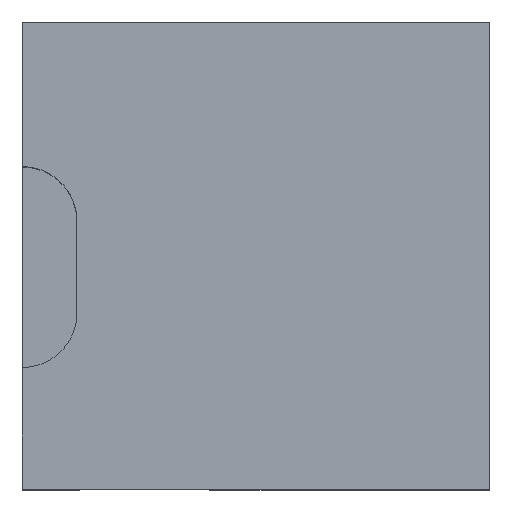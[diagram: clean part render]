
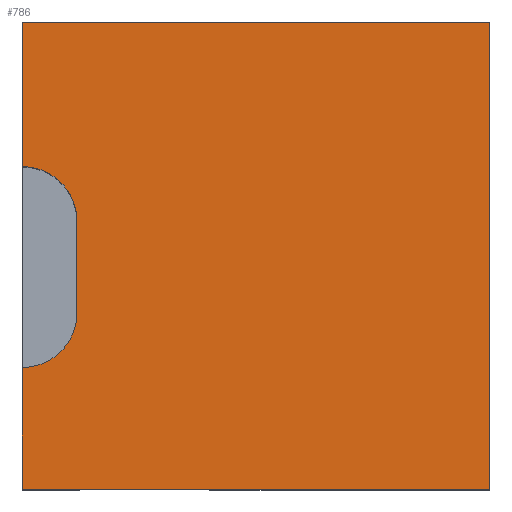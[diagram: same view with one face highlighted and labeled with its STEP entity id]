
A CAD part, top view. The second image highlights one B-rep face of the part: STEP entity #786.
In plain terms, the highlighted planar face has unit normal (0, 0, 1).
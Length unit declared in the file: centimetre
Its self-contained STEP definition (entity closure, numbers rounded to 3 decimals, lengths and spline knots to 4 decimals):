
#10 = CARTESIAN_POINT ( 'NONE',  ( 116.8825, 573.9685, 1000. ) ) ;
#14 = CARTESIAN_POINT ( 'NONE',  ( 0., 1000., 1000. ) ) ;
#31 = DIRECTION ( 'NONE',  ( 1., 0., 0. ) ) ;
#32 = EDGE_CURVE ( 'NONE', #815, #432, #845, .T. ) ;
#35 = CARTESIAN_POINT ( 'NONE',  ( 0., 377.4171, 1000. ) ) ;
#38 = FACE_OUTER_BOUND ( 'NONE', #338, .T. ) ;
#66 = VECTOR ( 'NONE', #629, 100. ) ;
#109 = CARTESIAN_POINT ( 'NONE',  ( 0., 0., 1000. ) ) ;
#141 = CARTESIAN_POINT ( 'NONE',  ( 0., 1000., 1000. ) ) ;
#144 = ORIENTED_EDGE ( 'NONE', *, *, #32, .F. ) ;
#146 = EDGE_CURVE ( 'NONE', #584, #493, #422, .T. ) ;
#161 = ORIENTED_EDGE ( 'NONE', *, *, #657, .T. ) ;
#164 = EDGE_CURVE ( 'NONE', #906, #815, #841, .T. ) ;
#171 = CARTESIAN_POINT ( 'NONE',  ( 116.8825, 573.9685, 1000. ) ) ;
#181 = VECTOR ( 'NONE', #218, 100. ) ;
#185 = PLANE ( 'NONE',  #295 ) ;
#189 = EDGE_CURVE ( 'NONE', #493, #432, #484, .T. ) ;
#190 = CARTESIAN_POINT ( 'NONE',  ( 116.8825, 377.4171, 1000. ) ) ;
#202 = EDGE_CURVE ( 'NONE', #869, #274, #564, .T. ) ;
#218 = DIRECTION ( 'NONE',  ( -1., 0., 0. ) ) ;
#223 = DIRECTION ( 'NONE',  ( 0., -1., 0. ) ) ;
#263 = ORIENTED_EDGE ( 'NONE', *, *, #202, .T. ) ;
#274 = VERTEX_POINT ( 'NONE', #502 ) ;
#284 = DIRECTION ( 'NONE',  ( 0., 1., 0. ) ) ;
#287 = EDGE_CURVE ( 'NONE', #274, #626, #768, .T. ) ;
#295 = AXIS2_PLACEMENT_3D ( 'NONE', #109, #322, #459 ) ;
#306 = CARTESIAN_POINT ( 'NONE',  ( 1000., 1000., 1000. ) ) ;
#322 = DIRECTION ( 'NONE',  ( 0., 0., 1. ) ) ;
#338 = EDGE_LOOP ( 'NONE', ( #874, #263, #377, #161, #615, #598, #144, #899 ) ) ;
#377 = ORIENTED_EDGE ( 'NONE', *, *, #287, .T. ) ;
#422 = LINE ( 'NONE', #14, #181 ) ;
#432 = VERTEX_POINT ( 'NONE', #681 ) ;
#459 = DIRECTION ( 'NONE',  ( 1., 0., 0. ) ) ;
#474 = CARTESIAN_POINT ( 'NONE',  ( 0., 260.5347, 1000. ) ) ;
#484 = LINE ( 'NONE', #141, #857 ) ;
#492 = CARTESIAN_POINT ( 'NONE',  ( 0., 0., 1000. ) ) ;
#493 = VERTEX_POINT ( 'NONE', #510 ) ;
#502 = CARTESIAN_POINT ( 'NONE',  ( 0., 0., 1000. ) ) ;
#507 = CARTESIAN_POINT ( 'NONE',  ( 1000., 1000., 1000. ) ) ;
#510 = CARTESIAN_POINT ( 'NONE',  ( 0., 1000., 1000. ) ) ;
#511 = CARTESIAN_POINT ( 'NONE',  ( 0., 573.9685, 1000. ) ) ;
#519 = AXIS2_PLACEMENT_3D ( 'NONE', #35, #868, #31 ) ;
#545 = DIRECTION ( 'NONE',  ( 0., 0., 1. ) ) ;
#560 = CARTESIAN_POINT ( 'NONE',  ( 0., 1000., 1000. ) ) ;
#564 = LINE ( 'NONE', #560, #66 ) ;
#580 = DIRECTION ( 'NONE',  ( 0., 1., 0. ) ) ;
#584 = VERTEX_POINT ( 'NONE', #507 ) ;
#598 = ORIENTED_EDGE ( 'NONE', *, *, #189, .T. ) ;
#615 = ORIENTED_EDGE ( 'NONE', *, *, #146, .T. ) ;
#626 = VERTEX_POINT ( 'NONE', #865 ) ;
#629 = DIRECTION ( 'NONE',  ( 0., -1., 0. ) ) ;
#632 = DIRECTION ( 'NONE',  ( 1., 0., 0. ) ) ;
#635 = VECTOR ( 'NONE', #632, 100. ) ;
#643 = EDGE_CURVE ( 'NONE', #869, #906, #666, .T. ) ;
#657 = EDGE_CURVE ( 'NONE', #626, #584, #660, .T. ) ;
#660 = LINE ( 'NONE', #306, #762 ) ;
#666 = CIRCLE ( 'NONE', #519, 116.8825 ) ;
#681 = CARTESIAN_POINT ( 'NONE',  ( 0., 690.851, 1000. ) ) ;
#689 = AXIS2_PLACEMENT_3D ( 'NONE', #511, #545, #829 ) ;
#762 = VECTOR ( 'NONE', #580, 100. ) ;
#768 = LINE ( 'NONE', #492, #635 ) ;
#779 = VECTOR ( 'NONE', #284, 100. ) ;
#786 = ADVANCED_FACE ( 'NONE', ( #38 ), #185, .T. ) ;
#815 = VERTEX_POINT ( 'NONE', #171 ) ;
#829 = DIRECTION ( 'NONE',  ( -1., 0., 0. ) ) ;
#841 = LINE ( 'NONE', #10, #779 ) ;
#845 = CIRCLE ( 'NONE', #689, 116.8825 ) ;
#857 = VECTOR ( 'NONE', #223, 100. ) ;
#865 = CARTESIAN_POINT ( 'NONE',  ( 1000., 0., 1000. ) ) ;
#868 = DIRECTION ( 'NONE',  ( 0., 0., 1. ) ) ;
#869 = VERTEX_POINT ( 'NONE', #474 ) ;
#874 = ORIENTED_EDGE ( 'NONE', *, *, #643, .F. ) ;
#899 = ORIENTED_EDGE ( 'NONE', *, *, #164, .F. ) ;
#906 = VERTEX_POINT ( 'NONE', #190 ) ;
